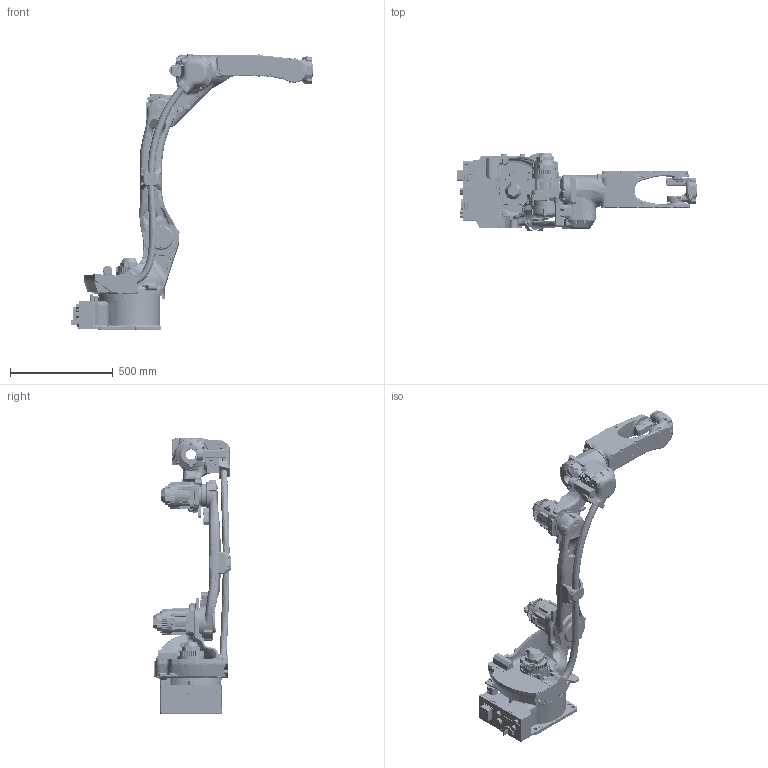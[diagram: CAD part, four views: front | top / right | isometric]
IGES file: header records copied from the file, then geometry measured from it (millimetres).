
Global section: file name: V:\v\Moto\gp12_gaikan\gp12-fertig\gp12.igs; native system: NX V10.0; preprocessor: SIEMENS PLM Software NX 10.0; date: 20161103.083656; units: millimetre
Bounding box: 1180.4 x 383.5 x 1345.01 mm (x, y, z)
Surface area: 2605441.8 mm2 (no closed solid volume)
Topology: 0 solids, 0 shells, 7659 faces, 50724 edges, 50689 vertices
Faces by surface type: bspline 7659
